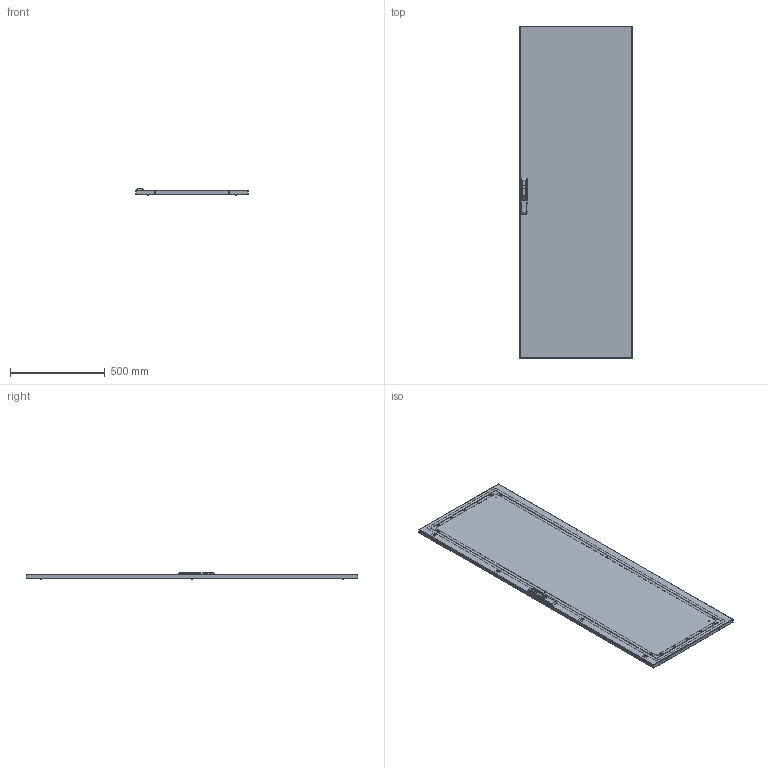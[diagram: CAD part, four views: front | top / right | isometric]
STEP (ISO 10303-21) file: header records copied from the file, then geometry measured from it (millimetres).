
FILE_DESCRIPTION(('CAx-IF Rec.Pracs.---Model Styling and Organization---1.2---2011-12-15','CAx-IF Rec.Pracs.---Geometric and Assembly Validation Properties---4.1---2014-06-16','CAx-IF Rec.Pracs.---PMI Polyline Presentation---2.0---2013-05-24'),'2;1');
FILE_NAME('R5CPE1860.stp','2021-05-06T05:55:12+03:00',(''),(''),'STEP Interface 4.4 by CT CoreTechnologie','3D_Evolution4.4 by CT CoreTechnologie','');
FILE_SCHEMA(('AUTOMOTIVE_DESIGN { 1 0 10303 214 1 1 1 1 }'));
Length unit declared in the file: millimetre
Products named in the file (24): R5CPE1860; Door frame TP CPE_TP1860; Door frame tube_600 (QB02C229); AC00C183; Door frame tube_1800 (QB02C223); AC00C184_AC00C184; M6-DIN 985 (ISO 10511) (CM250600)_stright; AC00C112; RB.0528.01.00.0 ÑÁ_-14; RB.0528.01.01.0_-14; AC00C720; AC00C061_AC00C061; PF 7x14 CPE_1800x0600; Handle bar 1800_closed; AC00C387; AC00C364; AC00C374; AC00C400; 4.2x13 DIN 7981_stright; BOX13-RU_closed; AC00C505-RU_AC00C505-R; A7100032-R-RU_mounted; AC00C506-RU_AC00C506-R; AC00C390_AC00C390
Assembly tree (50 placements, depth 3):
  R5CPE1860
    Door frame TP CPE_TP1860
      Door frame tube_600 (QB02C229)  x2
      AC00C183  x4
      Door frame tube_1800 (QB02C223)  x2
      AC00C184_AC00C184  x6
    M6-DIN 985 (ISO 10511) (CM250600)_stright  x4
    AC00C112  x4
    RB.0528.01.00.0 ÑÁ_-14
      RB.0528.01.01.0_-14
      AC00C720  x4
      AC00C061_AC00C061  x2
      PF 7x14 CPE_1800x0600
    Handle bar 1800_closed
      AC00C387
      AC00C364
      AC00C374
      AC00C400  x4
      4.2x13 DIN 7981_stright  x2
    BOX13-RU_closed
      AC00C505-RU_AC00C505-R
      A7100032-R-RU_mounted
      AC00C506-RU_AC00C506-R
    AC00C390_AC00C390  x2
    4.2x13 DIN 7981_stright  x2
Bounding box: 594 x 1755 x 35.01 mm (x, y, z)
Surface area: 3162734.1 mm2 (no closed solid volume)
Topology: 0 solids, 82 shells, 2088 faces, 5523 edges, 3582 vertices
Faces by surface type: plane 1104, cylinder 818, bspline 166
Entity records: 33950 total; most frequent: CARTESIAN_POINT 8273, DIRECTION 5129, ORIENTED_EDGE 4908, EDGE_CURVE 2454, AXIS2_PLACEMENT_3D 1828, VERTEX_POINT 1607, VECTOR 1473, LINE 1473
